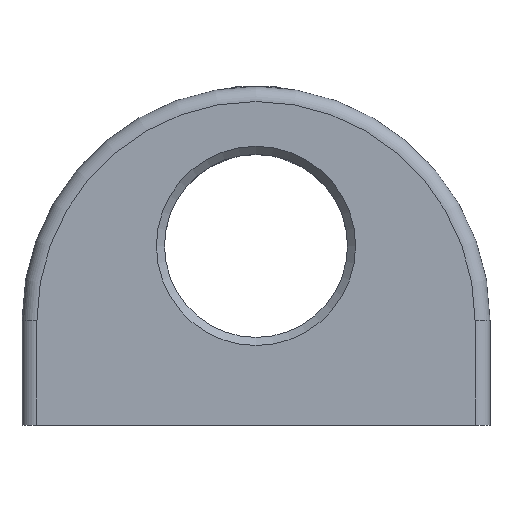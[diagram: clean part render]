
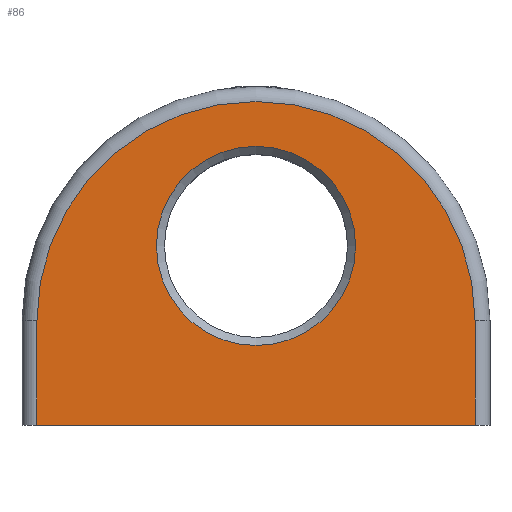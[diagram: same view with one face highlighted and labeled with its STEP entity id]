
A CAD part, top view. The second image highlights one B-rep face of the part: STEP entity #86.
In plain terms, the highlighted planar face has unit normal (0, 0, 1).
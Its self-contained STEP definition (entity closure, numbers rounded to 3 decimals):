
#86 = ADVANCED_FACE( '', ( #149, #150 ), #151, .F. );
#149 = FACE_BOUND( '', #258, .T. );
#150 = FACE_OUTER_BOUND( '', #259, .T. );
#151 = PLANE( '', #260 );
#258 = EDGE_LOOP( '', ( #420 ) );
#259 = EDGE_LOOP( '', ( #421, #422, #423, #424 ) );
#260 = AXIS2_PLACEMENT_3D( '', #425, #426, #427 );
#420 = ORIENTED_EDGE( '', *, *, #633, .T. );
#421 = ORIENTED_EDGE( '', *, *, #663, .F. );
#422 = ORIENTED_EDGE( '', *, *, #640, .F. );
#423 = ORIENTED_EDGE( '', *, *, #664, .T. );
#424 = ORIENTED_EDGE( '', *, *, #656, .T. );
#425 = CARTESIAN_POINT( '', ( -22., 10.5, 7. ) );
#426 = DIRECTION( '', ( 0., 0., -1. ) );
#427 = DIRECTION( '', ( -1., 0., 0. ) );
#633 = EDGE_CURVE( '', #720, #720, #721, .T. );
#640 = EDGE_CURVE( '', #733, #735, #736, .T. );
#656 = EDGE_CURVE( '', #765, #763, #766, .T. );
#663 = EDGE_CURVE( '', #735, #763, #774, .T. );
#664 = EDGE_CURVE( '', #733, #765, #775, .T. );
#720 = VERTEX_POINT( '', #978 );
#721 = CIRCLE( '', #979, 10. );
#733 = VERTEX_POINT( '', #991 );
#735 = VERTEX_POINT( '', #993 );
#736 = CIRCLE( '', #994, 22. );
#763 = VERTEX_POINT( '', #1030 );
#765 = VERTEX_POINT( '', #1032 );
#766 = LINE( '', #1033, #1034 );
#774 = LINE( '', #1046, #1047 );
#775 = LINE( '', #1048, #1049 );
#978 = CARTESIAN_POINT( '', ( -10., 18., 7. ) );
#979 = AXIS2_PLACEMENT_3D( '', #1159, #1160, #1161 );
#991 = CARTESIAN_POINT( '', ( -22., 10.5, 7. ) );
#993 = CARTESIAN_POINT( '', ( 22., 10.5, 7. ) );
#994 = AXIS2_PLACEMENT_3D( '', #1180, #1181, #1182 );
#1030 = CARTESIAN_POINT( '', ( 22., 0., 7. ) );
#1032 = CARTESIAN_POINT( '', ( -22., 0., 7. ) );
#1033 = CARTESIAN_POINT( '', ( -22., 0., 7. ) );
#1034 = VECTOR( '', #1210, 1000. );
#1046 = CARTESIAN_POINT( '', ( 22., 10.5, 7. ) );
#1047 = VECTOR( '', #1221, 1000. );
#1048 = CARTESIAN_POINT( '', ( -22., 10.5, 7. ) );
#1049 = VECTOR( '', #1222, 1000. );
#1159 = CARTESIAN_POINT( '', ( 0., 18., 7. ) );
#1160 = DIRECTION( '', ( 0., 0., -1. ) );
#1161 = DIRECTION( '', ( -1., 0., 0. ) );
#1180 = CARTESIAN_POINT( '', ( 0., 10.5, 7. ) );
#1181 = DIRECTION( '', ( 0., 0., -1. ) );
#1182 = DIRECTION( '', ( -1., 0., 0. ) );
#1210 = DIRECTION( '', ( 1., 0., 0. ) );
#1221 = DIRECTION( '', ( 0., -1., 0. ) );
#1222 = DIRECTION( '', ( 0., -1., 0. ) );
